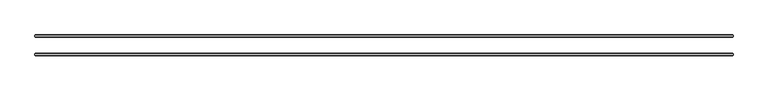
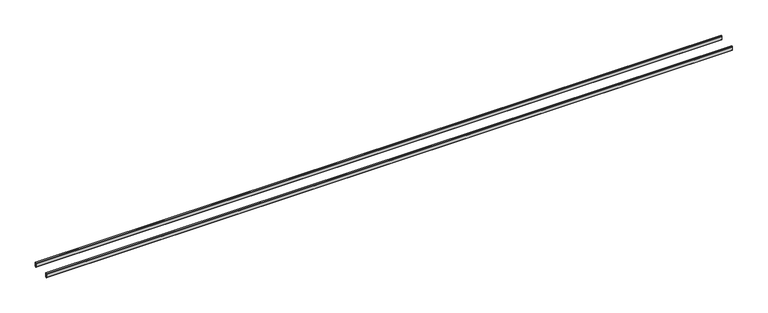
"""IFC4 building model written with IfcOpenShell, lengths in millimetres: plate geometry, 3-AMG-2-Панель двойной витраж 8, 10 : Смещение 32 Толщина 8mm."""

from ifc_helpers import new_model, si_unit, origin, place, context, project, spatial, faceted_brep, source, transform, mapped, element, save


def plate_9caeeabb(model_context):
    return source(origin(), model_context, "Body", "Brep", [
        faceted_brep([(1208.9, -34.4961653, 7.9011477), (1208.9, -29.5038347, 7.9011477), (-1208.9, -29.5038347, 7.9011477), (-1208.9, -34.4961653, 7.9011477), (1208.9, -29.5038347, -7.0), (1208.9, -34.4961653, -7.0), (-1208.9, -34.4961653, -7.0), (-1208.9, -29.5038347, -7.0), (-1207.3961653, -28.0, 6.397313), (1207.3961653, -28.0, 6.397313), (1207.3961653, -28.0, -5.5039422), (-1207.3961653, -28.0, -5.5039422), (1207.3961653, -36.0, 6.397313), (-1207.3961653, -36.0, 6.397313), (-1207.3961653, -36.0, -5.4961653), (1207.3961653, -36.0, -5.4961653)], [[[0, 1, 2, 3]], [[4, 5, 6, 7]], [[8, 9, 10, 11]], [[3, 2, 7, 6]], [[12, 13, 14, 15]], [[1, 0, 5, 4]], [[1, 4, 10, 9]], [[5, 0, 12, 15]], [[0, 3, 13, 12]], [[2, 1, 9, 8]], [[7, 2, 8, 11]], [[3, 6, 14, 13]], [[6, 5, 15, 14]], [[4, 7, 11, 10]]]),
        faceted_brep([(1208.9, 29.5038347, 7.9011477), (1208.9, 34.4961653, 7.9011477), (-1208.9, 34.4961653, 7.9011477), (-1208.9, 29.5038347, 7.9011477), (1208.9, 34.4961653, -7.0), (1208.9, 29.5038347, -7.0), (-1208.9, 29.5038347, -7.0), (-1208.9, 34.4961653, -7.0), (-1207.3961653, 36.0, 6.397313), (1207.3961653, 36.0, 6.397313), (1207.3961653, 36.0, -5.5039422), (-1207.3961653, 36.0, -5.5039422), (1207.3961653, 28.0, 6.397313), (-1207.3961653, 28.0, 6.397313), (-1207.3961653, 28.0, -5.4961653), (1207.3961653, 28.0, -5.4961653)], [[[0, 1, 2, 3]], [[4, 5, 6, 7]], [[8, 9, 10, 11]], [[3, 2, 7, 6]], [[12, 13, 14, 15]], [[1, 0, 5, 4]], [[1, 4, 10, 9]], [[5, 0, 12, 15]], [[7, 2, 8, 11]], [[3, 6, 14, 13]], [[0, 3, 13, 12]], [[2, 1, 9, 8]], [[6, 5, 15, 14]], [[4, 7, 11, 10]]]),
    ])


if __name__ == "__main__":
    model = new_model("IFC4")
    model_context = context("Model", 3, world=origin())
    ifc_project = project(units=[si_unit("LENGTHUNIT", "METRE", prefix="MILLI")], contexts=[model_context])
    site = spatial("IfcSite", under=ifc_project)
    building = spatial("IfcBuilding", under=site)
    placement = place(None, origin())
    plate_shape = plate_9caeeabb(model_context)
    element("IfcPlate", 1, ObjectType="3-AMG-2-Панель двойной витраж 8, 10 : Смещение 32 Толщина 8mm", at=placement, inside=building, context=model_context, shape_type="MappedRepresentation", body=[
        mapped(plate_shape, transform((0.0, 0.0, 0.0), x_axis=(1.0, 0.0, 0.0), y_axis=(0.0, 1.0, 0.0), z_axis=(0.0, 0.0, 1.0))),
    ])
    save(model, "model.ifc")
